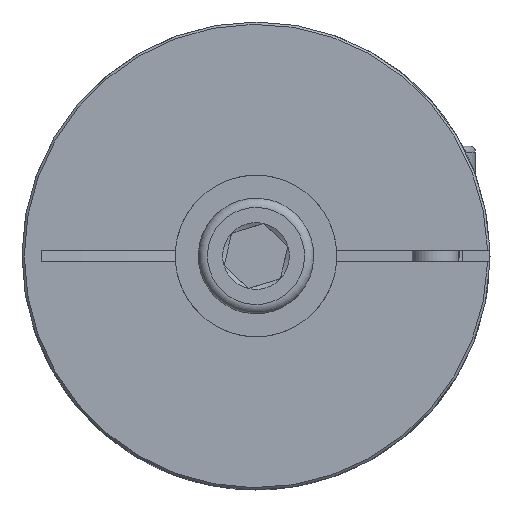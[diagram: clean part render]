
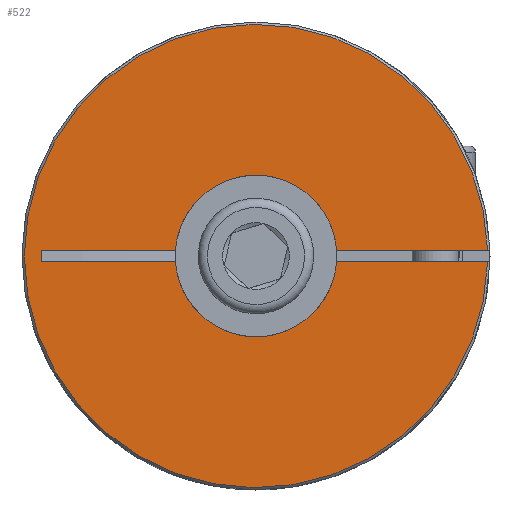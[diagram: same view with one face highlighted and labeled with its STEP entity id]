
A CAD part, left-side view. The second image highlights one B-rep face of the part: STEP entity #522.
In plain terms, the highlighted planar face has unit normal (-1, 0, 0).
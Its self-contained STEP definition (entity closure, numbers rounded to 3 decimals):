
#522 = ADVANCED_FACE( 'NONE', ( #1085 ), #1086, .F. );
#1085 = FACE_OUTER_BOUND( '', #1615, .T. );
#1086 = PLANE( '', #1616 );
#1615 = EDGE_LOOP( '', ( #2503, #2504, #2505, #2506, #2507, #2508, #2509, #2510 ) );
#1616 = AXIS2_PLACEMENT_3D( '', #2511, #2512, #2513 );
#2503 = ORIENTED_EDGE( '', *, *, #2837, .T. );
#2504 = ORIENTED_EDGE( '', *, *, #2722, .T. );
#2505 = ORIENTED_EDGE( '', *, *, #2742, .T. );
#2506 = ORIENTED_EDGE( '', *, *, #2713, .T. );
#2507 = ORIENTED_EDGE( '', *, *, #2542, .F. );
#2508 = ORIENTED_EDGE( '', *, *, #2719, .T. );
#2509 = ORIENTED_EDGE( '', *, *, #2844, .F. );
#2510 = ORIENTED_EDGE( '', *, *, #2847, .T. );
#2511 = CARTESIAN_POINT( '', ( 0., 3., 0. ) );
#2512 = DIRECTION( '', ( 1., 0., 0. ) );
#2513 = DIRECTION( '', ( 0., 1., 0. ) );
#2542 = EDGE_CURVE( '', #2870, #2873, #2874, .F. );
#2713 = EDGE_CURVE( 'NONE', #3130, #2873, #3131, .F. );
#2719 = EDGE_CURVE( '', #2870, #3138, #3140, .T. );
#2722 = EDGE_CURVE( '', #3144, #3142, #3145, .T. );
#2742 = EDGE_CURVE( '', #3142, #3130, #3172, .T. );
#2837 = EDGE_CURVE( 'NONE', #3287, #3144, #3289, .T. );
#2844 = EDGE_CURVE( 'NONE', #3295, #3138, #3297, .F. );
#2847 = EDGE_CURVE( 'NONE', #3295, #3287, #3300, .T. );
#2870 = VERTEX_POINT( '', #3333 );
#2873 = VERTEX_POINT( 'NONE', #3337 );
#2874 = LINE( '', #3338, #3339 );
#3130 = VERTEX_POINT( 'NONE', #3671 );
#3131 = CIRCLE( '', #3672, 20.05 );
#3138 = VERTEX_POINT( '', #3682 );
#3140 = CIRCLE( '', #3685, 7. );
#3142 = VERTEX_POINT( '', #3687 );
#3144 = VERTEX_POINT( '', #3690 );
#3145 = CIRCLE( '', #3691, 7. );
#3172 = LINE( '', #3722, #3723 );
#3287 = VERTEX_POINT( 'NONE', #3997 );
#3289 = LINE( '', #3999, #4000 );
#3295 = VERTEX_POINT( 'NONE', #4006 );
#3297 = LINE( '', #4008, #4009 );
#3300 = LINE( '', #4012, #4013 );
#3333 = CARTESIAN_POINT( '', ( 0., -6.982, -0.5 ) );
#3337 = CARTESIAN_POINT( '', ( 0., -20.044, -0.5 ) );
#3338 = CARTESIAN_POINT( '', ( 0., -3.5, -0.5 ) );
#3339 = VECTOR( '', #4032, 1000. );
#3671 = CARTESIAN_POINT( '', ( 0., -20.044, 0.5 ) );
#3672 = AXIS2_PLACEMENT_3D( '', #4285, #4286, #4287 );
#3682 = CARTESIAN_POINT( '', ( 0., 6.982, -0.5 ) );
#3685 = AXIS2_PLACEMENT_3D( '', #4292, #4293, #4294 );
#3687 = CARTESIAN_POINT( '', ( 0., -6.982, 0.5 ) );
#3690 = CARTESIAN_POINT( '', ( 0., 6.982, 0.5 ) );
#3691 = AXIS2_PLACEMENT_3D( '', #4299, #4300, #4301 );
#3722 = CARTESIAN_POINT( '', ( 0., 3., 0.5 ) );
#3723 = VECTOR( '', #4324, 1000. );
#3997 = CARTESIAN_POINT( '', ( 0., 18.545, 0.5 ) );
#3999 = CARTESIAN_POINT( '', ( 0., 3., 0.5 ) );
#4000 = VECTOR( '', #4409, 1000. );
#4006 = CARTESIAN_POINT( '', ( 0., 18.545, -0.5 ) );
#4008 = CARTESIAN_POINT( '', ( 0., -3.5, -0.5 ) );
#4009 = VECTOR( '', #4413, 1000. );
#4012 = CARTESIAN_POINT( '', ( 0., 18.545, -0.5 ) );
#4013 = VECTOR( '', #4414, 1000. );
#4032 = DIRECTION( '', ( 0., 1., 0. ) );
#4285 = CARTESIAN_POINT( '', ( 0., 0., 0. ) );
#4286 = DIRECTION( '', ( 1., 0., 0. ) );
#4287 = DIRECTION( '', ( 0., 0., -1. ) );
#4292 = CARTESIAN_POINT( '', ( 0., 0., 0. ) );
#4293 = DIRECTION( '', ( 1., 0., 0. ) );
#4294 = DIRECTION( '', ( 0., 0., -1. ) );
#4299 = CARTESIAN_POINT( '', ( 0., 0., 0. ) );
#4300 = DIRECTION( '', ( 1., 0., 0. ) );
#4301 = DIRECTION( '', ( 0., 0., -1. ) );
#4324 = DIRECTION( '', ( 0., -1., 0. ) );
#4409 = DIRECTION( '', ( 0., -1., 0. ) );
#4413 = DIRECTION( '', ( 0., 1., 0. ) );
#4414 = DIRECTION( '', ( 0., 0., 1. ) );
